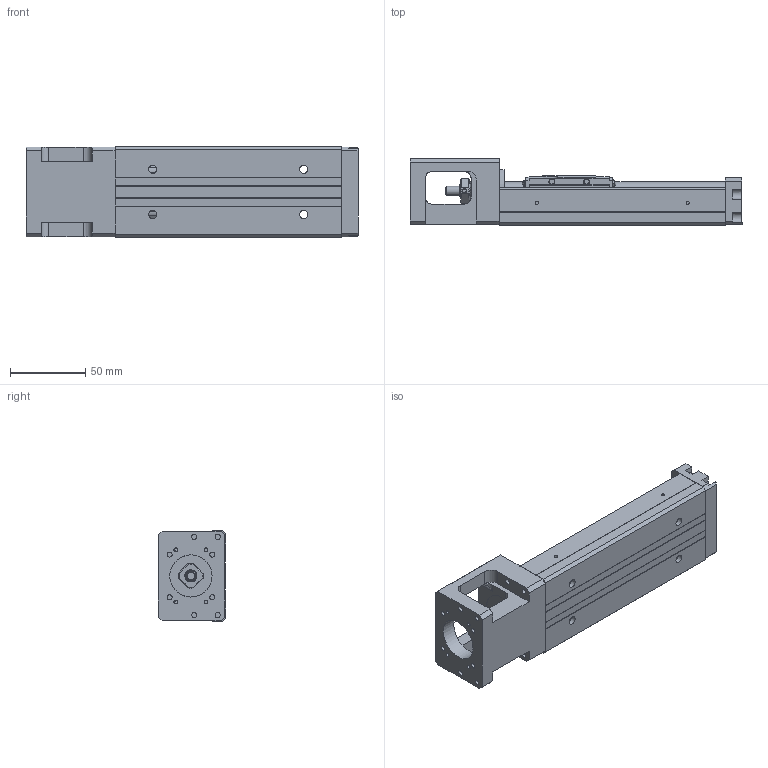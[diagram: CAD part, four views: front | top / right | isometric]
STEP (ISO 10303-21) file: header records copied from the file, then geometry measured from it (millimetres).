
FILE_DESCRIPTION(/* description */ (''),/* implementation_level */ '2;1');
FILE_NAME(/* name */ '33S-150low.stp',/* time_stamp */ '2018-02-12T11:20:46+08:00',/* author */ (''),/* organization */ (''),/* preprocessor_version */ 'ST-DEVELOPER v11',/* originating_system */ 'SIEMENS UGS NX 6.0',/* authorisation */ '');
FILE_SCHEMA (('AUTOMOTIVE_DESIGN { 1 0 10303 214 1 1 1 1 }'));
Length unit declared in the file: millimetre
Products named in the file (1): 3.069
Bounding box: 220 x 44.45 x 60 mm (x, y, z)
Volume: 287940.2 mm3; surface area: 82754.9 mm2
Topology: 5 solids, 10 shells, 570 faces, 1479 edges, 972 vertices
Faces by surface type: plane 341, cylinder 148, bspline 31, extrusion 21, cone 20, torus 7, revolution 2
Full cylindrical faces by diameter (mm): 1.6 x1, 1.65 x4, 2.15 x2, 2.42 x4, 2.45 x2, 2.5 x4, 3.2 x4, 3.3 x4, 3.4 x4, 3.5 x10, 3.969 x1, 4 x4, 4.001 x1, 4.135 x2, 5.5 x4, 6 x5, 7.6 x1, 8 x5, 9.5 x4, 10.72 x3, 11.8 x2, 12 x1, 12.8 x1, 13 x2, 14 x1, 16 x4, 21.5 x1, 28 x1
Entity records: 32988 total; most frequent: CARTESIAN_POINT 15745, ORIENTED_EDGE 2626, DIRECTION 2616, EDGE_CURVE 1313, VERTEX_POINT 916, AXIS2_PLACEMENT_3D 895, VECTOR 824, LINE 803
